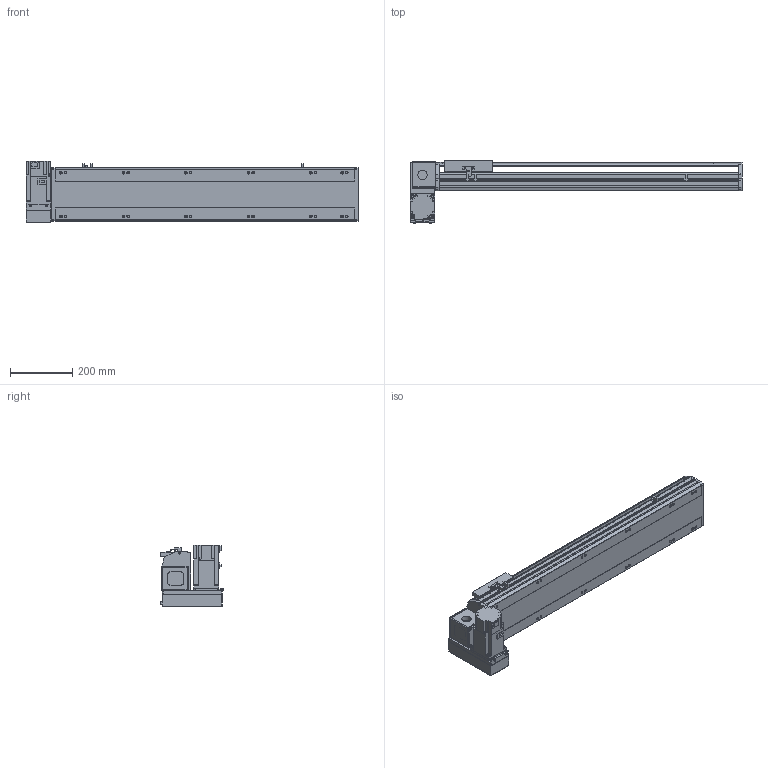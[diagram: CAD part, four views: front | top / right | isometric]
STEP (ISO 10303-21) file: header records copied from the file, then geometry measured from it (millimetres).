
FILE_DESCRIPTION( ( 'STEP AP214' ), '1' );
FILE_NAME( 'x:/temp/worker_3/temp/exporttempdir_5412_7_nfqjE/format_0/PBS170-P40-S700-LD-T75-C1-N(0).stp', '2022-06-07T07:50:55', ( 'License CC BY-ND 4.0' ), ( 'CADENAS' ), ' ', 'PARTsolutions', ' ' );
FILE_SCHEMA( ( 'AUTOMOTIVE_DESIGN { 1 0 10303 214 1 1 1 1 }' ) );
Length unit declared in the file: millimetre
Products named in the file (7): PBS170-P40-S700-LD-T75-C1-N(0); _PBS170-S700()_body; _PBS170T-LD_motors; _T75-p1; _PBS170_sliser; _PBS170_plant; _PBS170_sensor
Assembly tree (8 placements, depth 2):
  PBS170-P40-S700-LD-T75-C1-N(0)
    _PBS170-S700()_body
    _PBS170T-LD_motors
    _T75-p1
    _PBS170_sliser
    _PBS170_plant
    _PBS170_sensor  x3
Bounding box: 1063 x 201 x 197.3 mm (x, y, z)
Volume: 8851753.7 mm3; surface area: 1182694.4 mm2
Topology: 8 solids, 8 shells, 1050 faces, 2795 edges, 1822 vertices
Faces by surface type: plane 675, cylinder 323, cone 42, sphere 8, torus 2
Full cylindrical faces by diameter (mm): 3.242 x4, 4 x2, 4.4 x4, 4.5 x6, 4.917 x4, 6 x9, 6.647 x20, 7 x2, 7.5 x4, 8 x8, 8.5 x12, 10 x4, 10.5 x12, 11 x2, 30 x2, 40 x1, 70 x1
Entity records: 38456 total; most frequent: CARTESIAN_POINT 5885, DIRECTION 5160, ORIENTED_EDGE 4908, EDGE_CURVE 2454, AXIS2_PLACEMENT_3D 1777, VERTEX_POINT 1682, LINE 1606, VECTOR 1606
